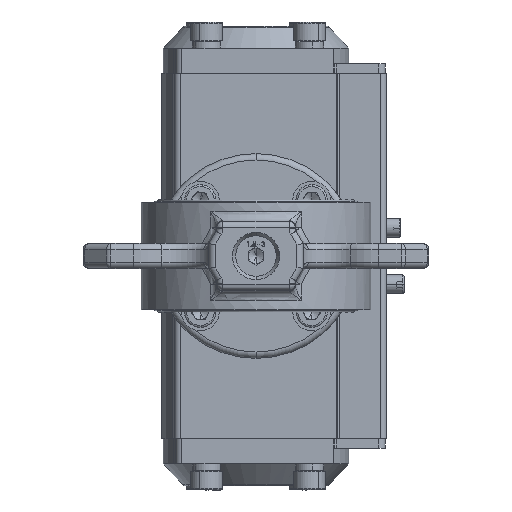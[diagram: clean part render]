
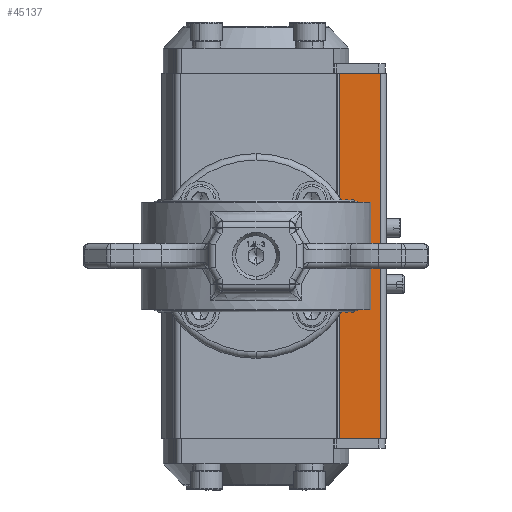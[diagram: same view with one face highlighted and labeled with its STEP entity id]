
A CAD part, front view. The second image highlights one B-rep face of the part: STEP entity #45137.
In plain terms, the highlighted planar face has unit normal (0, -1, 0).
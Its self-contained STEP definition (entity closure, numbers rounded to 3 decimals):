
#24652 = EDGE_CURVE ( 'NONE', #74173, #74171, #55954, .T. ) ;
#25081 = EDGE_CURVE ( 'NONE', #74173, #109699, #203213, .T. ) ;
#25087 = EDGE_CURVE ( 'NONE', #109699, #109698, #203223, .T. ) ;
#25091 = EDGE_CURVE ( 'NONE', #74171, #109698, #203232, .T. ) ;
#45137 = ADVANCED_FACE ( 'NONE', ( #71882 ), #71884, .T. ) ;
#52876 = ORIENTED_EDGE ( 'NONE', *, *, #24652, .F. ) ;
#52878 = ORIENTED_EDGE ( 'NONE', *, *, #25081, .T. ) ;
#52881 = ORIENTED_EDGE ( 'NONE', *, *, #25087, .T. ) ;
#52884 = ORIENTED_EDGE ( 'NONE', *, *, #25091, .F. ) ;
#55951 = CARTESIAN_POINT ( 'NONE',  ( 0., 155., 58. ) ) ;
#55954 = LINE ( 'NONE', #55951, #200216 ) ;
#55982 = DIRECTION ( 'NONE',  ( 1., 0., 0. ) ) ;
#71874 = CARTESIAN_POINT ( 'NONE',  ( 26., 155., -58. ) ) ;
#71882 = FACE_OUTER_BOUND ( 'NONE', #109112, .T. ) ;
#71884 = PLANE ( 'NONE',  #173921 ) ;
#71888 = DIRECTION ( 'NONE',  ( 0., -1., 0. ) ) ;
#71890 = DIRECTION ( 'NONE',  ( 0., 0., -1. ) ) ;
#74171 = VERTEX_POINT ( 'NONE', #133152 ) ;
#74173 = VERTEX_POINT ( 'NONE', #133154 ) ;
#109112 = EDGE_LOOP ( 'NONE', ( #52876, #52878, #52881, #52884 ) ) ;
#109698 = VERTEX_POINT ( 'NONE', #135099 ) ;
#109699 = VERTEX_POINT ( 'NONE', #135084 ) ;
#133152 = CARTESIAN_POINT ( 'NONE',  ( 39.5, 155., 58. ) ) ;
#133154 = CARTESIAN_POINT ( 'NONE',  ( 26.5, 155., 58. ) ) ;
#135084 = CARTESIAN_POINT ( 'NONE',  ( 26.5, 155., -58. ) ) ;
#135099 = CARTESIAN_POINT ( 'NONE',  ( 39.5, 155., -58. ) ) ;
#173921 = AXIS2_PLACEMENT_3D ( 'NONE', #71874, #71888, #71890 ) ;
#200216 = VECTOR ( 'NONE', #55982, 1000. ) ;
#200458 = VECTOR ( 'NONE', #203218, 1000. ) ;
#200460 = VECTOR ( 'NONE', #203231, 1000. ) ;
#200466 = VECTOR ( 'NONE', #203237, 1000. ) ;
#203213 = LINE ( 'NONE', #203216, #200458 ) ;
#203214 = CARTESIAN_POINT ( 'NONE',  ( 0., 155., -58. ) ) ;
#203216 = CARTESIAN_POINT ( 'NONE',  ( 26.5, 155., -58. ) ) ;
#203218 = DIRECTION ( 'NONE',  ( 0., 0., -1. ) ) ;
#203223 = LINE ( 'NONE', #203214, #200460 ) ;
#203231 = DIRECTION ( 'NONE',  ( 1., 0., 0. ) ) ;
#203232 = LINE ( 'NONE', #203235, #200466 ) ;
#203235 = CARTESIAN_POINT ( 'NONE',  ( 39.5, 155., 209.218 ) ) ;
#203237 = DIRECTION ( 'NONE',  ( 0., 0., -1. ) ) ;
